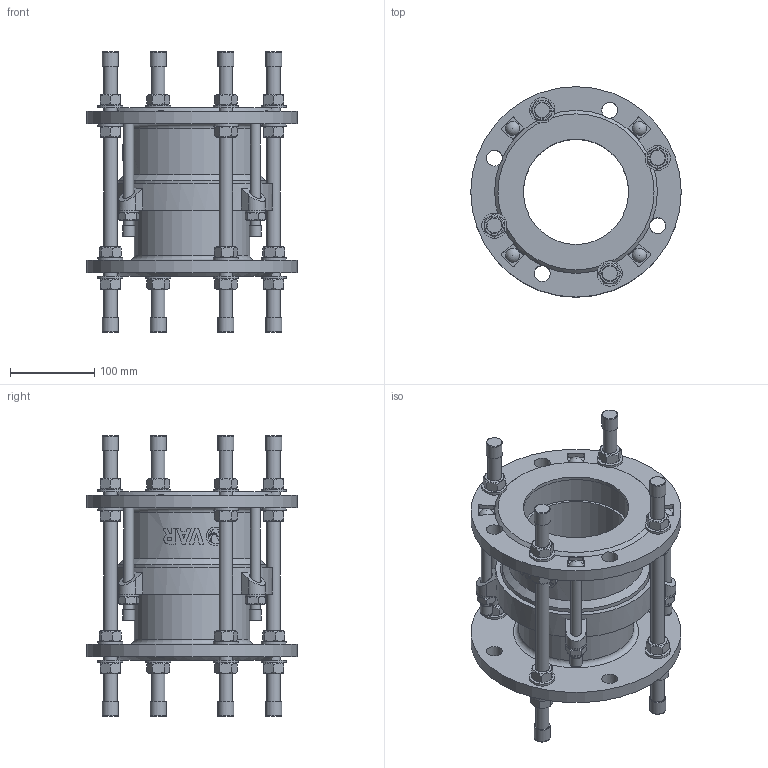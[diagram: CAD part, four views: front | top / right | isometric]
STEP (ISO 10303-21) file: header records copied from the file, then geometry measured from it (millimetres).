
FILE_DESCRIPTION(('STEP AP242'), '1');
FILE_NAME('Ìîíòàæíàÿ âñòàâêà', '', ('UNSPECIFIED'), ('UNSPECIFIED'), 'C3D Converter', 'C3D Toolkit', '');
FILE_SCHEMA(('AP242_MANAGED_MODEL_BASED_3D_ENGINEERING_MIM_LF { 1 0 10303 442 1 1 4 }'));
Length unit declared in the file: millimetre
Products named in the file (13): ШМ.М16.310
Assembly tree (64 placements, depth 2):
  (unnamed)
    (unnamed)
    (unnamed)
    (unnamed)
    (unnamed)  x16
    (unnamed)  x16
    ШМ.М16.310  x4
    (unnamed)  x8
    (unnamed)
    (unnamed)  x4
    (unnamed)  x4
    (unnamed)  x4
    (unnamed)  x4
Bounding box: 250 x 250 x 333.2 mm (x, y, z)
Volume: 2612651.6 mm3; surface area: 684640.4 mm2
Topology: 64 solids, 64 shells, 668 faces, 1466 edges, 936 vertices
Faces by surface type: plane 385, cylinder 155, cone 99, torus 14, extrusion 11, sphere 4
Full cylindrical faces by diameter (mm): 12 x12, 13 x4, 14 x4, 14.4 x4, 16 x28, 17 x16, 19 x16, 19.2 x8, 21.964 x1, 24 x4, 30 x16, 125 x2, 137 x2, 143 x2, 161 x1, 167 x1, 175 x1, 179 x1, 191 x1, 250 x2
Entity records: 15364 total; most frequent: CARTESIAN_POINT 7362, DIRECTION 1256, ORIENTED_EDGE 1092, EDGE_CURVE 546, AXIS2_PLACEMENT_3D 515, VERTEX_POINT 399, EDGE_LOOP 377, FACE_BOUND 271
